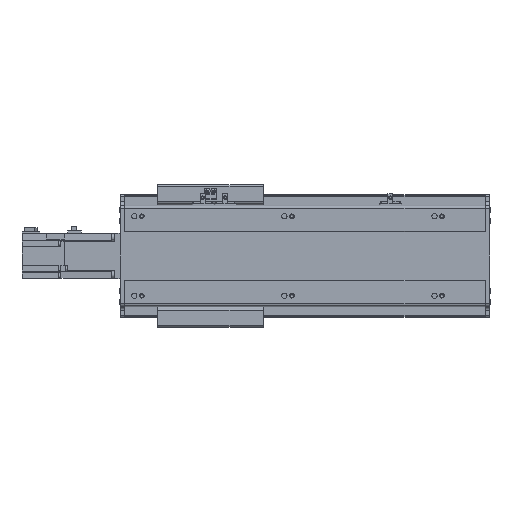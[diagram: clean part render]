
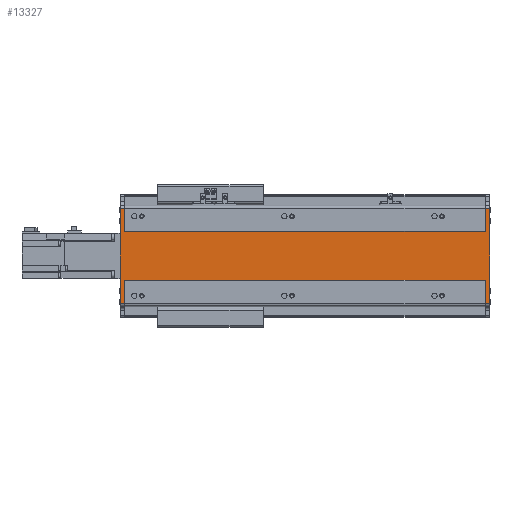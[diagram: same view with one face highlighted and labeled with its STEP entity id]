
A CAD part, front view. The second image highlights one B-rep face of the part: STEP entity #13327.
In plain terms, the highlighted planar face has unit normal (0, -1, 0).
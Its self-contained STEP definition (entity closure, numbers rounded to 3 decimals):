
#2855=ORIENTED_EDGE('',*,*,#5740,.T.);
#2856=ORIENTED_EDGE('',*,*,#5741,.F.);
#2857=ORIENTED_EDGE('',*,*,#5742,.F.);
#2858=ORIENTED_EDGE('',*,*,#5743,.F.);
#2859=ORIENTED_EDGE('',*,*,#5662,.F.);
#2860=ORIENTED_EDGE('',*,*,#5744,.F.);
#2861=ORIENTED_EDGE('',*,*,#5745,.F.);
#2862=ORIENTED_EDGE('',*,*,#5746,.T.);
#2863=ORIENTED_EDGE('',*,*,#5660,.T.);
#2864=ORIENTED_EDGE('',*,*,#5747,.T.);
#2865=ORIENTED_EDGE('',*,*,#5748,.F.);
#2866=ORIENTED_EDGE('',*,*,#5738,.T.);
#5660=EDGE_CURVE('',#7243,#7248,#8526,.T.);
#5662=EDGE_CURVE('',#7249,#7251,#8527,.T.);
#5738=EDGE_CURVE('',#7306,#7305,#8583,.T.);
#5740=EDGE_CURVE('',#7305,#7307,#8584,.T.);
#5741=EDGE_CURVE('',#7308,#7307,#8585,.T.);
#5742=EDGE_CURVE('',#7309,#7308,#8586,.T.);
#5743=EDGE_CURVE('',#7251,#7309,#8587,.T.);
#5744=EDGE_CURVE('',#7310,#7249,#8588,.T.);
#5745=EDGE_CURVE('',#7311,#7310,#8589,.T.);
#5746=EDGE_CURVE('',#7311,#7243,#8590,.T.);
#5747=EDGE_CURVE('',#7248,#7312,#8591,.T.);
#5748=EDGE_CURVE('',#7306,#7312,#8592,.T.);
#7243=VERTEX_POINT('',#21375);
#7248=VERTEX_POINT('',#21385);
#7249=VERTEX_POINT('',#21389);
#7251=VERTEX_POINT('',#21392);
#7305=VERTEX_POINT('',#21537);
#7306=VERTEX_POINT('',#21539);
#7307=VERTEX_POINT('',#21543);
#7308=VERTEX_POINT('',#21545);
#7309=VERTEX_POINT('',#21547);
#7310=VERTEX_POINT('',#21550);
#7311=VERTEX_POINT('',#21552);
#7312=VERTEX_POINT('',#21555);
#8526=LINE('',#21386,#9863);
#8527=LINE('',#21391,#9864);
#8583=LINE('',#21538,#9920);
#8584=LINE('',#21542,#9921);
#8585=LINE('',#21544,#9922);
#8586=LINE('',#21546,#9923);
#8587=LINE('',#21548,#9924);
#8588=LINE('',#21549,#9925);
#8589=LINE('',#21551,#9926);
#8590=LINE('',#21553,#9927);
#8591=LINE('',#21554,#9928);
#8592=LINE('',#21556,#9929);
#9863=VECTOR('',#17152,1000.);
#9864=VECTOR('',#17157,1000.);
#9920=VECTOR('',#17285,1000.);
#9921=VECTOR('',#17290,1000.);
#9922=VECTOR('',#17291,1000.);
#9923=VECTOR('',#17292,1000.);
#9924=VECTOR('',#17293,1000.);
#9925=VECTOR('',#17294,1000.);
#9926=VECTOR('',#17295,1000.);
#9927=VECTOR('',#17296,1000.);
#9928=VECTOR('',#17297,1000.);
#9929=VECTOR('',#17298,1000.);
#10900=EDGE_LOOP('',(#2855,#2856,#2857,#2858,#2859,#2860,#2861,#2862,#2863,
#2864,#2865,#2866));
#11901=FACE_BOUND('',#10900,.T.);
#12696=PLANE('',#14460);
#13327=ADVANCED_FACE('',(#11901),#12696,.F.);
#14460=AXIS2_PLACEMENT_3D('',#21541,#17288,#17289);
#17152=DIRECTION('',(0.,0.,-1.));
#17157=DIRECTION('',(0.,0.,1.));
#17285=DIRECTION('',(-1.,0.,0.));
#17288=DIRECTION('',(0.,1.,0.));
#17289=DIRECTION('',(0.,0.,1.));
#17290=DIRECTION('',(0.,0.,-1.));
#17291=DIRECTION('',(-1.,0.,0.));
#17292=DIRECTION('',(0.,0.,-1.));
#17293=DIRECTION('',(-1.,0.,0.));
#17294=DIRECTION('',(-1.,0.,0.));
#17295=DIRECTION('',(0.,0.,-1.));
#17296=DIRECTION('',(-1.,0.,0.));
#17297=DIRECTION('',(-1.,0.,0.));
#17298=DIRECTION('',(0.,0.,-1.));
#21375=CARTESIAN_POINT('',(486.5,1.,63.128));
#21385=CARTESIAN_POINT('',(486.5,1.,32.));
#21386=CARTESIAN_POINT('',(486.5,1.,63.128));
#21389=CARTESIAN_POINT('',(486.5,1.,-63.128));
#21391=CARTESIAN_POINT('',(486.5,1.,66.5));
#21392=CARTESIAN_POINT('',(486.5,1.,-32.));
#21537=CARTESIAN_POINT('',(0.,1.,63.128));
#21538=CARTESIAN_POINT('',(6.,1.,63.128));
#21539=CARTESIAN_POINT('',(6.,1.,63.128));
#21541=CARTESIAN_POINT('',(6.,1.,63.128));
#21542=CARTESIAN_POINT('',(0.,1.,63.128));
#21543=CARTESIAN_POINT('',(0.,1.,-63.128));
#21544=CARTESIAN_POINT('',(6.,1.,-63.128));
#21545=CARTESIAN_POINT('',(6.,1.,-63.128));
#21546=CARTESIAN_POINT('',(6.,1.,63.128));
#21547=CARTESIAN_POINT('',(6.,1.,-32.));
#21548=CARTESIAN_POINT('',(486.5,1.,-32.));
#21549=CARTESIAN_POINT('',(492.5,1.,-63.128));
#21550=CARTESIAN_POINT('',(492.5,1.,-63.128));
#21551=CARTESIAN_POINT('',(492.5,1.,63.128));
#21552=CARTESIAN_POINT('',(492.5,1.,63.128));
#21553=CARTESIAN_POINT('',(492.5,1.,63.128));
#21554=CARTESIAN_POINT('',(486.5,1.,32.));
#21555=CARTESIAN_POINT('',(6.,1.,32.));
#21556=CARTESIAN_POINT('',(6.,1.,63.128));
